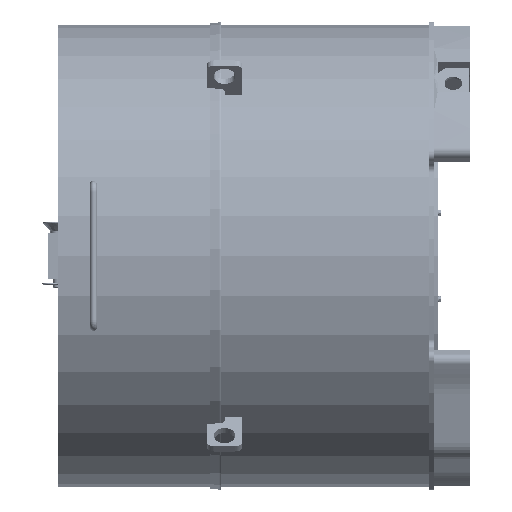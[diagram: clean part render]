
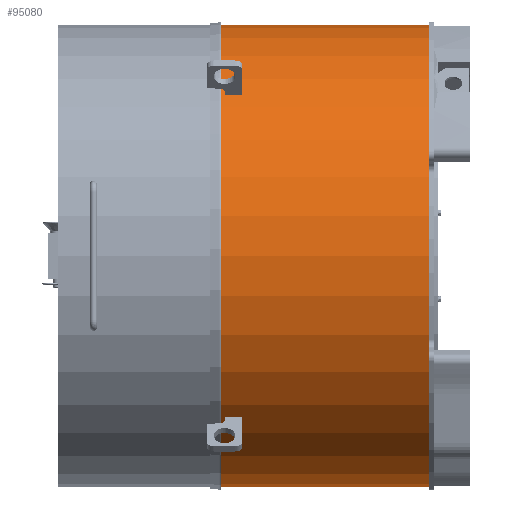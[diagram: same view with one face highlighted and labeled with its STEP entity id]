
A CAD part, left-side view. The second image highlights one B-rep face of the part: STEP entity #95080.
In plain terms, the highlighted cylindrical face has radius 324 mm (diameter 648 mm), a partial arc.
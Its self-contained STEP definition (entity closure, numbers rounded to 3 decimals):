
#8421 = FACE_OUTER_BOUND ( 'NONE', #58676, .T. ) ;
#24083 = AXIS2_PLACEMENT_3D ( 'NONE', #251877, #154640, #235195 ) ;
#25960 = DIRECTION ( 'NONE',  ( 0., 0., -1. ) ) ;
#26383 = CARTESIAN_POINT ( 'NONE',  ( 0., 0., 2. ) ) ;
#37046 = CARTESIAN_POINT ( 'NONE',  ( 0., -324., 293. ) ) ;
#41286 = EDGE_CURVE ( 'NONE', #144973, #141011, #95346, .T. ) ;
#56521 = ORIENTED_EDGE ( 'NONE', *, *, #241322, .F. ) ;
#58676 = EDGE_LOOP ( 'NONE', ( #177633, #190013, #56521, #99874 ) ) ;
#75857 = CARTESIAN_POINT ( 'NONE',  ( 0., -324., 293. ) ) ;
#81308 = AXIS2_PLACEMENT_3D ( 'NONE', #26383, #163859, #246135 ) ;
#95080 = ADVANCED_FACE ( 'NONE', ( #8421 ), #259188, .T. ) ;
#95346 = LINE ( 'NONE', #75857, #161089 ) ;
#99874 = ORIENTED_EDGE ( 'NONE', *, *, #242637, .T. ) ;
#122764 = VERTEX_POINT ( 'NONE', #184654 ) ;
#123169 = CARTESIAN_POINT ( 'NONE',  ( 0., 0., 293. ) ) ;
#125768 = DIRECTION ( 'NONE',  ( -1., 0., 0. ) ) ;
#131517 = LINE ( 'NONE', #240587, #153639 ) ;
#139118 = EDGE_CURVE ( 'NONE', #141011, #256034, #206379, .T. ) ;
#141011 = VERTEX_POINT ( 'NONE', #173600 ) ;
#144973 = VERTEX_POINT ( 'NONE', #37046 ) ;
#153639 = VECTOR ( 'NONE', #198569, 1000. ) ;
#154640 = DIRECTION ( 'NONE',  ( 0., 0., 1. ) ) ;
#161089 = VECTOR ( 'NONE', #196645, 1000. ) ;
#163859 = DIRECTION ( 'NONE',  ( 0., 0., -1. ) ) ;
#173600 = CARTESIAN_POINT ( 'NONE',  ( 0., -324., 2. ) ) ;
#177633 = ORIENTED_EDGE ( 'NONE', *, *, #139118, .F. ) ;
#184654 = CARTESIAN_POINT ( 'NONE',  ( 0., 324., 293. ) ) ;
#190013 = ORIENTED_EDGE ( 'NONE', *, *, #41286, .F. ) ;
#196645 = DIRECTION ( 'NONE',  ( 0., 0., -1. ) ) ;
#198569 = DIRECTION ( 'NONE',  ( 0., 0., -1. ) ) ;
#206379 = CIRCLE ( 'NONE', #81308, 324. ) ;
#210909 = CIRCLE ( 'NONE', #24083, 324. ) ;
#225715 = CARTESIAN_POINT ( 'NONE',  ( 0., 324., 2. ) ) ;
#235195 = DIRECTION ( 'NONE',  ( 1., 0., 0. ) ) ;
#240587 = CARTESIAN_POINT ( 'NONE',  ( 0., 324., 293. ) ) ;
#241322 = EDGE_CURVE ( 'NONE', #122764, #144973, #210909, .T. ) ;
#242637 = EDGE_CURVE ( 'NONE', #122764, #256034, #131517, .T. ) ;
#245105 = AXIS2_PLACEMENT_3D ( 'NONE', #123169, #25960, #125768 ) ;
#246135 = DIRECTION ( 'NONE',  ( 0., 1., 0. ) ) ;
#251877 = CARTESIAN_POINT ( 'NONE',  ( 0., 0., 293. ) ) ;
#256034 = VERTEX_POINT ( 'NONE', #225715 ) ;
#259188 = CYLINDRICAL_SURFACE ( 'NONE', #245105, 324. ) ;
